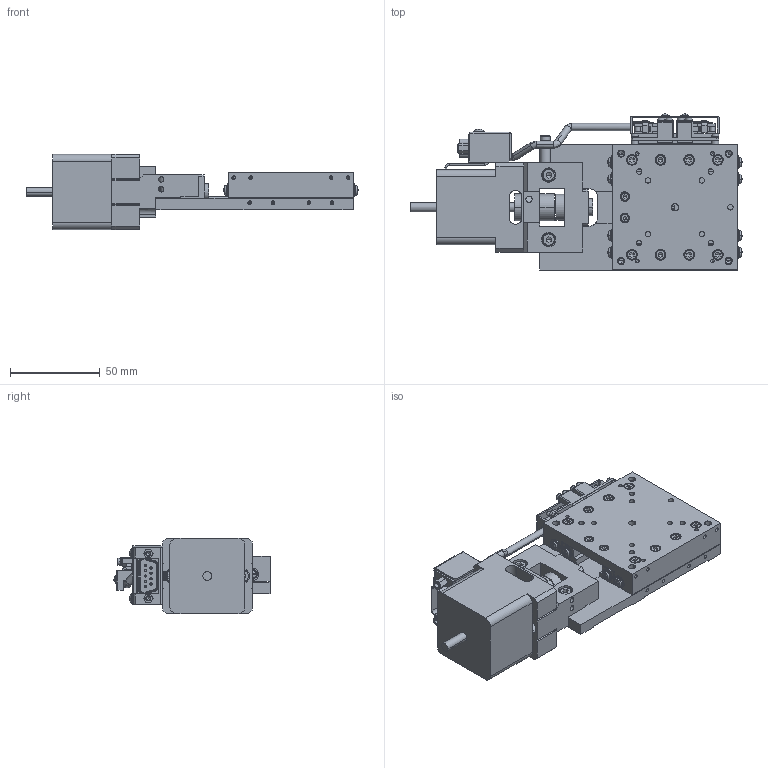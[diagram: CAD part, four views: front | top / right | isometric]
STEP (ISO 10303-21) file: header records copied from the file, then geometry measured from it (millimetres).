
FILE_DESCRIPTION( (''), '2;1');
FILE_NAME ('MVXA07A-R103-R.stp','2022-03-28T17:21:31',(''),(''),'spGate 17.5.5','','');
FILE_SCHEMA (('AUTOMOTIVE_DESIGN'));
Length unit declared in the file: millimetre
Products named in the file (3): Assembly; MVXA07A-R103-R-prt0; MVXA07A-R103-R-prt1
Assembly tree (2 placements, depth 2):
  Assembly
    MVXA07A-R103-R-prt0
    MVXA07A-R103-R-prt1
Bounding box: 185.49 x 87.18 x 42 mm (x, y, z)
Volume: 212474.9 mm3; surface area: 78740 mm2
Topology: 5 solids, 7 shells, 3069 faces, 7549 edges, 4595 vertices
Faces by surface type: plane 1639, cylinder 886, bspline 499, sphere 45
Entity records: 153822 total; most frequent: CARTESIAN_POINT 24914, ORIENTED_EDGE 14774, DIRECTION 13722, COLOUR_RGB 10454, PRESENTATION_STYLE_ASSIGNMENT 10454, STYLED_ITEM 10454, EDGE_CURVE 7387, DRAUGHTING_PRE_DEFINED_CURVE_FONT 7387
